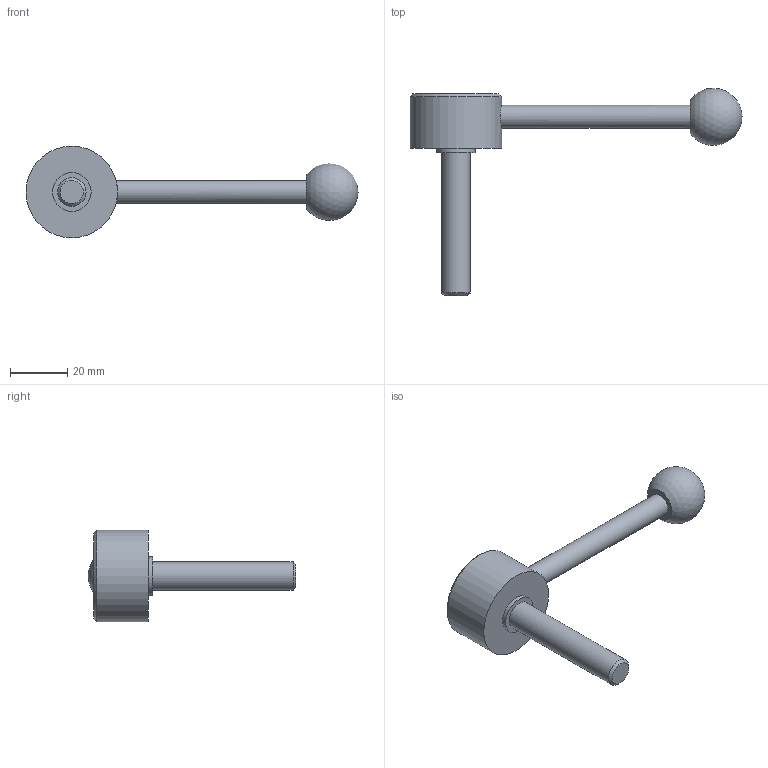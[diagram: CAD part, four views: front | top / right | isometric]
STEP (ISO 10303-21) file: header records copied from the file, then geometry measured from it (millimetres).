
FILE_DESCRIPTION( ( 'STEP AP203' ), '1' );
FILE_NAME( 'C:/Temp/Ganter_Step_05_03_2020/data/2_1/gn_125/gn_125_ms/gn_125_ms_d/Flat Adjustable Lever GN 125-32-M10-50-D.stp', '2020-03-05T11:00:46', ( 'License CC BY-ND 4.0' ), ( 'CADENAS' ), ' ', 'PARTsolutions', ' ' );
FILE_SCHEMA( ( 'CONFIG_CONTROL_DESIGN' ) );
Length unit declared in the file: millimetre
Products named in the file (1): _Flat Adjustable Lever GN 125-32-M10-50-D
Bounding box: 116 x 72.43 x 32 mm (x, y, z)
Volume: 26661.1 mm3; surface area: 7900.3 mm2
Topology: 1 solids, 1 shells, 14 faces, 23 edges, 15 vertices
Faces by surface type: plane 6, cylinder 5, cone 2, sphere 1
Full cylindrical faces by diameter (mm): 8 x1, 10 x1, 13.5 x1, 22 x1, 32 x1
Entity records: 384 total; most frequent: CARTESIAN_POINT 107, DIRECTION 54, AXIS2_PLACEMENT_3D 27, EDGE_LOOP 26, ORIENTED_EDGE 26, FACE_OUTER_BOUND 19, ADVANCED_FACE 14, VERTEX_POINT 14
